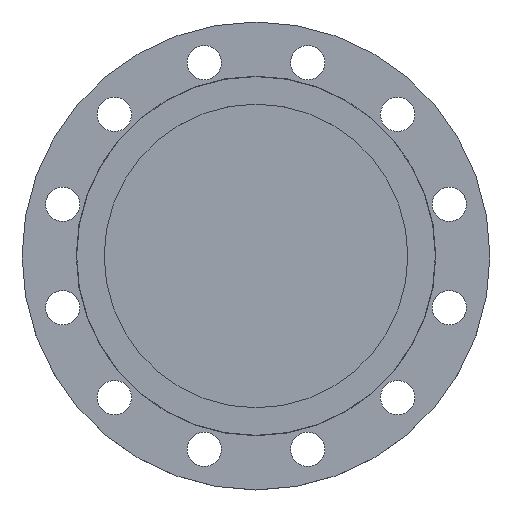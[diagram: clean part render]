
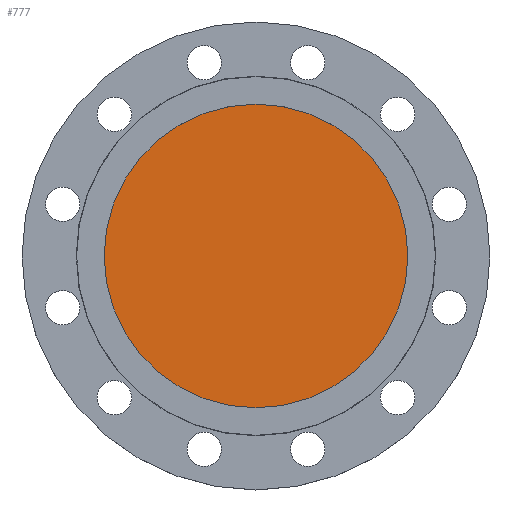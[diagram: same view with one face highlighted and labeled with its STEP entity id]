
A CAD part, top view. The second image highlights one B-rep face of the part: STEP entity #777.
In plain terms, the highlighted planar face has unit normal (0, 0, 1).
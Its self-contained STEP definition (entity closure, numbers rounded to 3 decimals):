
#79 = AXIS2_PLACEMENT_3D ( 'NONE', #389, #388, #387 ) ;
#155 = EDGE_CURVE ( 'NONE', #989, #979, #799, .T. ) ;
#207 = CIRCLE ( 'NONE', #79, 146. ) ;
#212 = CARTESIAN_POINT ( 'NONE',  ( -146., 0., -5. ) ) ;
#220 = CARTESIAN_POINT ( 'NONE',  ( 146., 0., -5. ) ) ;
#237 = AXIS2_PLACEMENT_3D ( 'NONE', #354, #353, #352 ) ;
#352 = DIRECTION ( 'NONE',  ( 1., 0., 0. ) ) ;
#353 = DIRECTION ( 'NONE',  ( 0., 0., 1. ) ) ;
#354 = CARTESIAN_POINT ( 'NONE',  ( 0., 0., -5. ) ) ;
#355 = PLANE ( 'NONE',  #237 ) ;
#357 = FACE_OUTER_BOUND ( 'NONE', #887, .T. ) ;
#387 = DIRECTION ( 'NONE',  ( -1., 0., 0. ) ) ;
#388 = DIRECTION ( 'NONE',  ( 0., 0., -1. ) ) ;
#389 = CARTESIAN_POINT ( 'NONE',  ( 0., 0., -5. ) ) ;
#609 = DIRECTION ( 'NONE',  ( -1., 0., 0. ) ) ;
#610 = DIRECTION ( 'NONE',  ( 0., 0., -1. ) ) ;
#612 = CARTESIAN_POINT ( 'NONE',  ( 0., 0., -5. ) ) ;
#703 = ORIENTED_EDGE ( 'NONE', *, *, #155, .F. ) ;
#704 = ORIENTED_EDGE ( 'NONE', *, *, #731, .F. ) ;
#731 = EDGE_CURVE ( 'NONE', #979, #989, #207, .T. ) ;
#777 = ADVANCED_FACE ( 'NONE', ( #357 ), #355, .T. ) ;
#793 = AXIS2_PLACEMENT_3D ( 'NONE', #612, #610, #609 ) ;
#799 = CIRCLE ( 'NONE', #793, 146. ) ;
#887 = EDGE_LOOP ( 'NONE', ( #703, #704 ) ) ;
#979 = VERTEX_POINT ( 'NONE', #220 ) ;
#989 = VERTEX_POINT ( 'NONE', #212 ) ;
